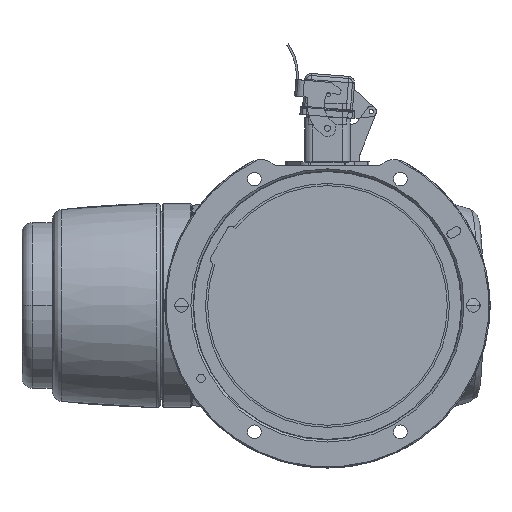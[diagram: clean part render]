
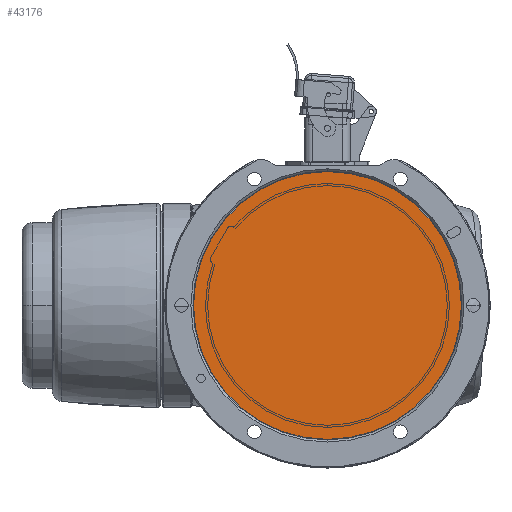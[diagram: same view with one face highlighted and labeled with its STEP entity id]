
A CAD part, front view. The second image highlights one B-rep face of the part: STEP entity #43176.
In plain terms, the highlighted planar face has unit normal (0, -1, 0).
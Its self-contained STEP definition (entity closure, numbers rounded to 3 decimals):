
#4489 = VERTEX_POINT ( 'NONE', #219690 ) ;
#21833 = CIRCLE ( 'NONE', #162499, 64.25 ) ;
#21937 = DIRECTION ( 'NONE',  ( 0., 1., 0. ) ) ;
#43176 = ADVANCED_FACE ( 'NONE', ( #248427 ), #79232, .F. ) ;
#53677 = CARTESIAN_POINT ( 'NONE',  ( 0., 1., 0. ) ) ;
#79232 = PLANE ( 'NONE',  #250995 ) ;
#85236 = DIRECTION ( 'NONE',  ( -0.5, 0., 0.866 ) ) ;
#104988 = EDGE_CURVE ( 'NONE', #4489, #169841, #160205, .T. ) ;
#110076 = CARTESIAN_POINT ( 'NONE',  ( 0., 1., 0. ) ) ;
#118486 = EDGE_CURVE ( 'NONE', #169841, #4489, #21833, .T. ) ;
#133146 = ORIENTED_EDGE ( 'NONE', *, *, #104988, .F. ) ;
#140440 = DIRECTION ( 'NONE',  ( -0.5, 0., 0.866 ) ) ;
#153441 = CARTESIAN_POINT ( 'NONE',  ( 0., 1., 0. ) ) ;
#160205 = CIRCLE ( 'NONE', #210117, 64.25 ) ;
#162499 = AXIS2_PLACEMENT_3D ( 'NONE', #110076, #21937, #195367 ) ;
#162723 = ORIENTED_EDGE ( 'NONE', *, *, #118486, .F. ) ;
#165948 = DIRECTION ( 'NONE',  ( 0., 1., 0. ) ) ;
#169841 = VERTEX_POINT ( 'NONE', #184119 ) ;
#184119 = CARTESIAN_POINT ( 'NONE',  ( -32.125, 1., 55.642 ) ) ;
#195367 = DIRECTION ( 'NONE',  ( -0.5, 0., 0.866 ) ) ;
#210117 = AXIS2_PLACEMENT_3D ( 'NONE', #153441, #279951, #85236 ) ;
#219690 = CARTESIAN_POINT ( 'NONE',  ( 32.125, 1., -55.642 ) ) ;
#228648 = EDGE_LOOP ( 'NONE', ( #133146, #162723 ) ) ;
#248427 = FACE_OUTER_BOUND ( 'NONE', #228648, .T. ) ;
#250995 = AXIS2_PLACEMENT_3D ( 'NONE', #53677, #165948, #140440 ) ;
#279951 = DIRECTION ( 'NONE',  ( 0., 1., 0. ) ) ;
